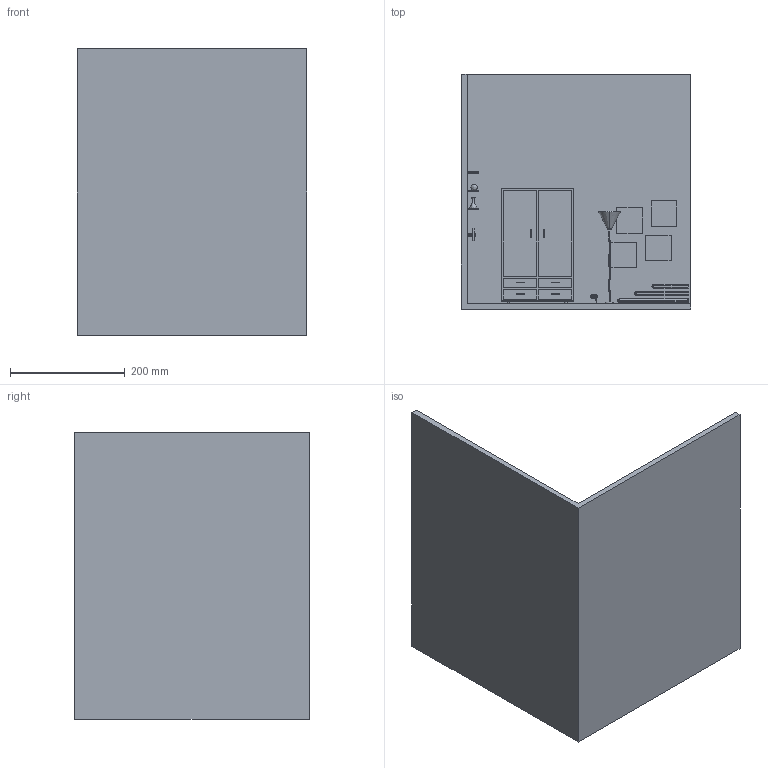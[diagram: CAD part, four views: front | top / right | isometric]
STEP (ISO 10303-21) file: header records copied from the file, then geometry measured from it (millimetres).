
FILE_DESCRIPTION (( 'STEP AP214' ), '1' );
FILE_NAME ('Furniture.STEP', '2012-03-17T19:36:03', ( '' ), ( '' ), 'SwSTEP 2.0', 'SolidWorks 2011', '' );
FILE_SCHEMA (( 'AUTOMOTIVE_DESIGN' ));
Length unit declared in the file: millimetre
Products named in the file (12): Door; Furniture; Chandelier; Bowl; Outlet; Steker; Handle; Closet; Vase; Drawer; Wall; Lamp
Assembly tree (21 placements, depth 2):
  Furniture
    Drawer  x4
    Handle  x6
    Bowl
    Outlet  x2
    Door  x2
    Wall
    Chandelier
    Vase
    Closet
    Lamp
    Steker
Bounding box: 400 x 410 x 500 mm (x, y, z)
Volume: 6042404.2 mm3; surface area: 1454609.9 mm2
Topology: 24 solids, 24 shells, 569 faces, 1317 edges, 852 vertices
Faces by surface type: plane 302, cylinder 151, bspline 68, torus 44, cone 4
Entity records: 14395 total; most frequent: CARTESIAN_POINT 4711, DIRECTION 1753, ORIENTED_EDGE 1628, EDGE_CURVE 814, AXIS2_PLACEMENT_3D 651, VERTEX_POINT 521, LINE 451, VECTOR 451
